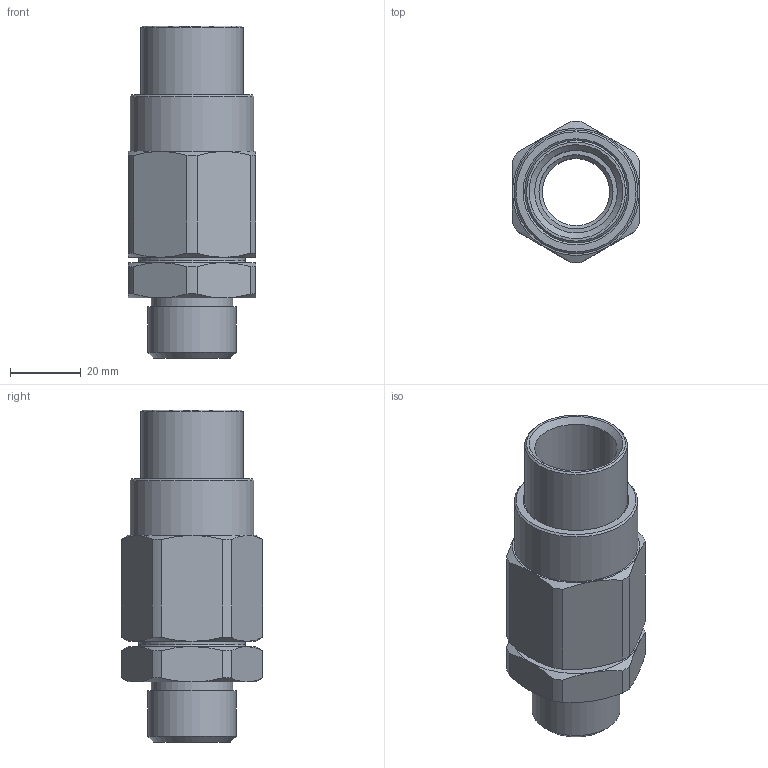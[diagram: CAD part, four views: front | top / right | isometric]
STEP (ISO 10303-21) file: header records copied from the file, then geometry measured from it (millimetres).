
FILE_DESCRIPTION((''),'2;1');
FILE_NAME('D:\WORKS\Чертежи\ТЗ\10.24\112802\TCBHA2MНК_3d.stp','2024-10-14T10:30:56',('t.v.ogurnaya'),(''),'Autodesk Inventor 2012','Autodesk Inventor 2012','');
FILE_SCHEMA(('AUTOMOTIVE_DESIGN { 1 0 10303 214 1 1 1 1 }'));
Length unit declared in the file: millimetre
Products named in the file (1): TCBHA (параметрика)_Внешний контур_1
Bounding box: 36 x 39.99 x 94 mm (x, y, z)
Surface area: 28088.2 mm2 (no closed solid volume)
Topology: 0 solids, 4 shells, 105 faces, 236 edges, 145 vertices
Faces by surface type: plane 38, cone 35, cylinder 31, torus 1
Full cylindrical faces by diameter (mm): 19 x1, 21 x1, 22 x1, 23 x1, 23.376 x1, 25 x1, 29 x2, 30 x1, 30.1 x1, 30.376 x1, 32 x1, 35 x1
Entity records: 2839 total; most frequent: CARTESIAN_POINT 544, DIRECTION 470, ORIENTED_EDGE 408, AXIS2_PLACEMENT_3D 208, EDGE_CURVE 204, EDGE_LOOP 144, VERTEX_POINT 138, FACE_OUTER_BOUND 105
